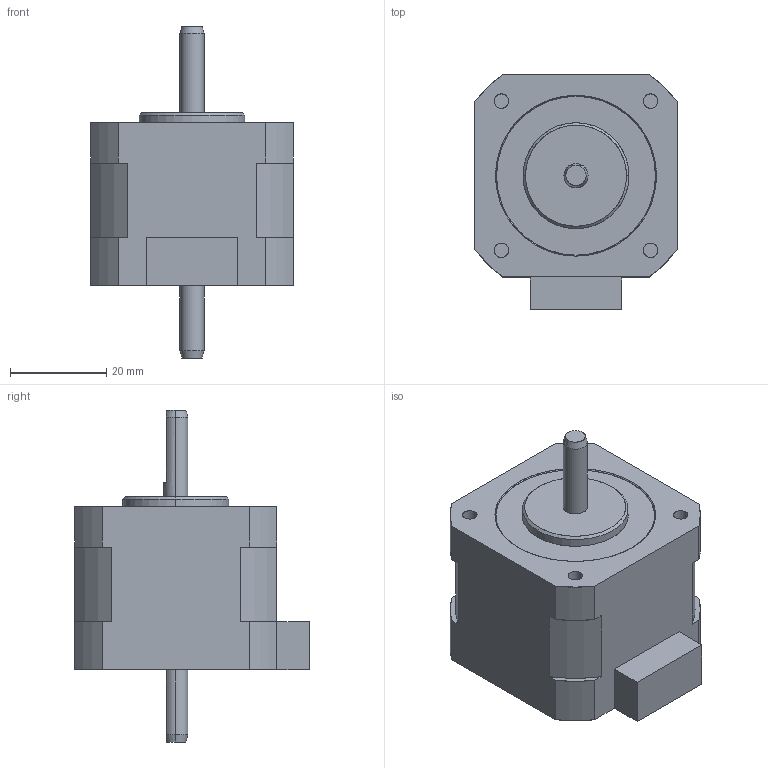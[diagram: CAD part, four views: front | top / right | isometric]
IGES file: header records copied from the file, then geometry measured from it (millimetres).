
Start section: SolidWorks IGES file using analytic representation for surfaces
Global section: file name: C:\Users\6870\Desktop\PMSA-U42D1D_3D.IGS; native system: SolidWorks 2014; preprocessor: SolidWorks 2014; author: 6870; date: 170131.132657; units: millimetre
Bounding box: 42 x 48.7 x 69 mm (x, y, z)
Surface area: 9891.2 mm2 (no closed solid volume)
Topology: 0 solids, 0 shells, 66 faces, 912 edges, 912 vertices
Faces by surface type: revolution 37, bspline 29
